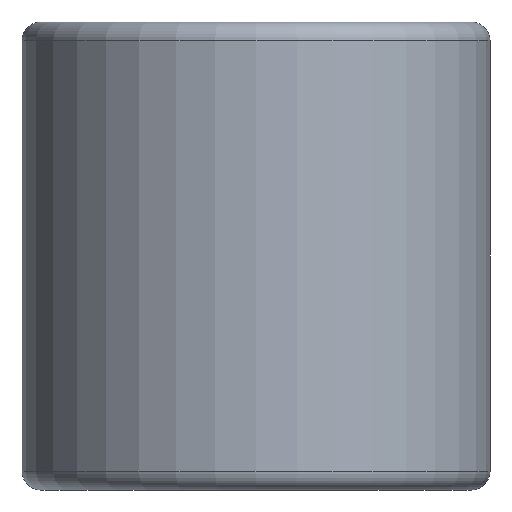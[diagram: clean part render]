
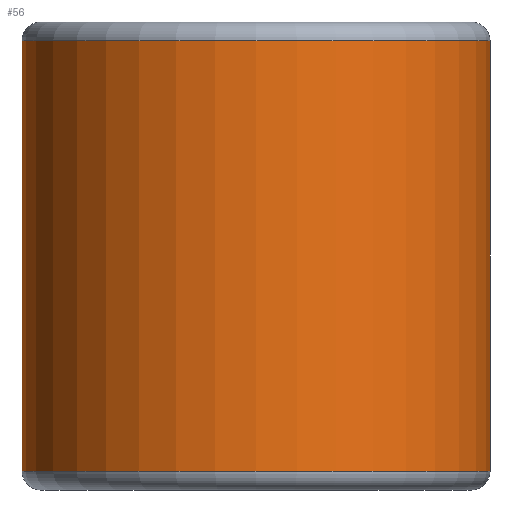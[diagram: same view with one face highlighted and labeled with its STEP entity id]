
A CAD part, front view. The second image highlights one B-rep face of the part: STEP entity #56.
In plain terms, the highlighted cylindrical face has radius 2.5 mm (diameter 5 mm), a full revolution.
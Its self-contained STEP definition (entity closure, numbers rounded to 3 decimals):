
#16=CYLINDRICAL_SURFACE('',#66,2.5);
#18=FACE_BOUND('',#28,.T.);
#21=FACE_OUTER_BOUND('',#27,.T.);
#27=EDGE_LOOP('',(#47));
#28=EDGE_LOOP('',(#48));
#34=CIRCLE('',#65,2.5);
#35=CIRCLE('',#67,2.5);
#38=VERTEX_POINT('',#96);
#39=VERTEX_POINT('',#99);
#42=EDGE_CURVE('',#38,#38,#34,.T.);
#43=EDGE_CURVE('',#39,#39,#35,.T.);
#47=ORIENTED_EDGE('',*,*,#43,.F.);
#48=ORIENTED_EDGE('',*,*,#42,.F.);
#56=ADVANCED_FACE('',(#21,#18),#16,.T.);
#65=AXIS2_PLACEMENT_3D('',#97,#78,#79);
#66=AXIS2_PLACEMENT_3D('',#98,#80,#81);
#67=AXIS2_PLACEMENT_3D('',#100,#82,#83);
#78=DIRECTION('center_axis',(0.,0.,1.));
#79=DIRECTION('ref_axis',(-1.,0.,0.));
#80=DIRECTION('center_axis',(0.,0.,1.));
#81=DIRECTION('ref_axis',(-1.,0.,0.));
#82=DIRECTION('center_axis',(0.,0.,-1.));
#83=DIRECTION('ref_axis',(-1.,0.,0.));
#96=CARTESIAN_POINT('',(2.5,0.,4.8));
#97=CARTESIAN_POINT('Origin',(0.,0.,4.8));
#98=CARTESIAN_POINT('Origin',(0.,0.,0.));
#99=CARTESIAN_POINT('',(2.5,0.,0.2));
#100=CARTESIAN_POINT('Origin',(0.,0.,0.2));
